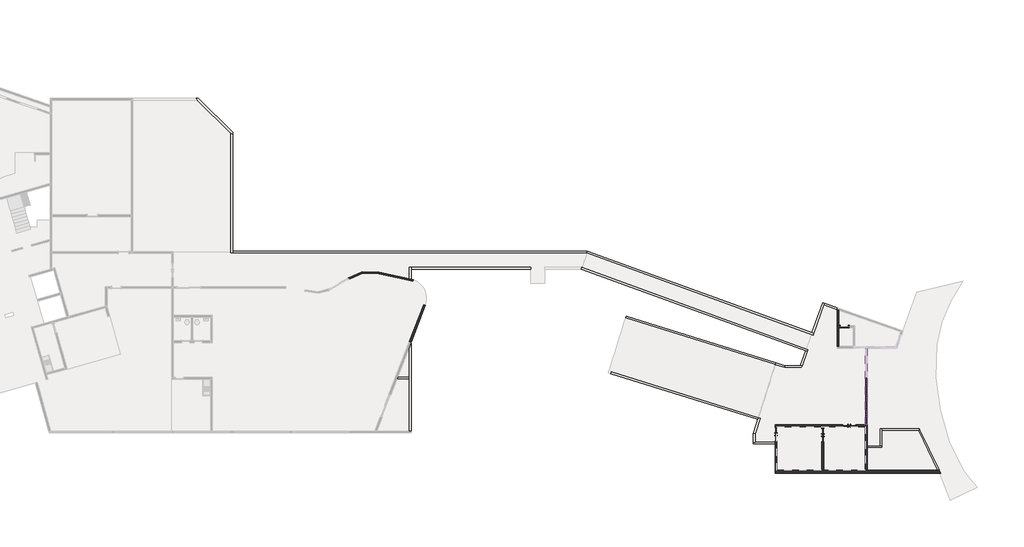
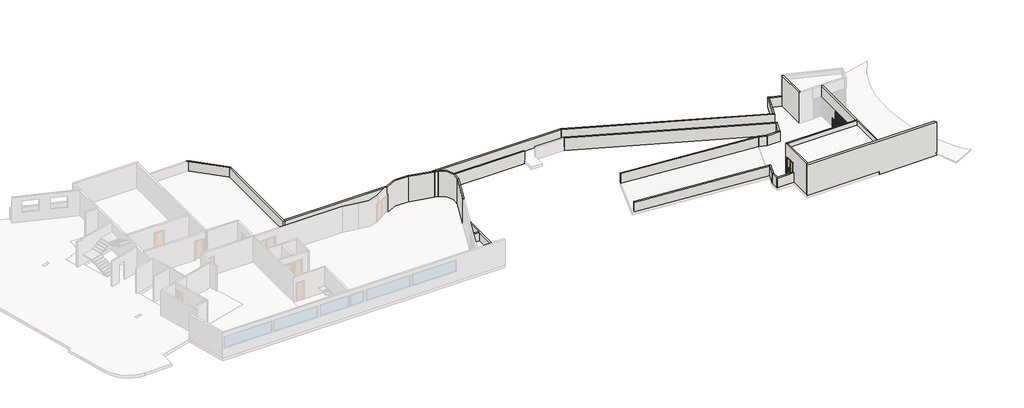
# One storey, part 4 of 7: 43 plates, 35 walls, 4 doors.
"""IFC4 building model written with IfcOpenShell, lengths in millimetres."""

from ifc_helpers import new_model, si_unit, point, frame, frame_2d, origin, place, context, project, spatial, polyline, circle_curve, trimmed, segment, composite_curve, outline, extrude, faceted_brep, transform, mapped, element, save
from ifc_brep_helpers import plane_surface, cylinder_surface, revolved_surface, advanced_brep
from components import door_1_20_x_2_10_046a985c, p3_70cm_ef4d15e3, painel_do_sistema_vazio_vazio_954907b5, painel_do_sistema_vazio_vazio_9710a491

model = new_model("IFC4")

# Units and contexts
model_context = context("Model", 3, world=origin())
ifc_project = project(units=[si_unit("LENGTHUNIT", "METRE", prefix="MILLI")], contexts=[model_context])

# Site, building, storey
site = spatial("IfcSite", under=ifc_project)
building = spatial("IfcBuilding", under=site)
storey = spatial("IfcBuildingStorey", under=building, Name="Térreo", Elevation=50750.0)

# Doors
placement = place(None, origin())
door_1_20_x_2_10_shape = door_1_20_x_2_10_046a985c(model_context)
element("IfcDoor", 1, ObjectType="Porta pivotante dupla sem revestimento : 1.20 x 2.10", at=placement, inside=storey, context=model_context, shape_type="MappedRepresentation", body=[
    mapped(door_1_20_x_2_10_shape, transform((-9877.0303394, 3216.5362358, 50000.0), x_axis=(0.0, -1.0, 0.0), y_axis=(1.0, 0.0, 0.0), z_axis=(0.0, 0.0, 1.0))),
])
element("IfcDoor", 2, ObjectType="Porta pivotante dupla sem revestimento : 1.20 x 2.10", at=placement, inside=storey, context=model_context, shape_type="MappedRepresentation", body=[
    mapped(door_1_20_x_2_10_shape, transform((-7648.4895645, 4010.4720862, 50000.0), x_axis=(-1.0, 0.0, 0.0), y_axis=(0.0, -1.0, 0.0), z_axis=(0.0, 0.0, 1.0))),
])
element("IfcDoor", 3, ObjectType="Porta pivotante dupla sem revestimento : 1.20 x 2.10", at=placement, inside=storey, context=model_context, shape_type="MappedRepresentation", body=[
    mapped(door_1_20_x_2_10_shape, transform((-13827.9200377, 3287.2039595, 50000.0), x_axis=(0.0, 1.0, 0.0), y_axis=(-1.0, 0.0, 0.0), z_axis=(0.0, 0.0, 1.0))),
])
p3_70cm_shape = p3_70cm_ef4d15e3(model_context)
element("IfcDoor", 4, ObjectType="M_Folha única1 : P3 - 70CM", at=placement, inside=storey, context=model_context, shape_type="MappedRepresentation", body=[
    mapped(p3_70cm_shape, transform((-8072.0478779, 12380.6611067, 50000.0), x_axis=(-1.0, 0.0, 0.0), y_axis=(0.0, -1.0, 0.0), z_axis=(0.0, 0.0, 1.0))),
])

# Plates
painel_do_sistema_vazio_vazio_shape = painel_do_sistema_vazio_vazio_954907b5(model_context)
element("IfcPlate", 5, ObjectType="Painel do sistema vazio : Vazio", at=placement, inside=storey, context=model_context, shape_type="MappedRepresentation", body=[
    mapped(painel_do_sistema_vazio_vazio_shape, transform((-6213.4895645, 4192.1673738, 50030.0), x_axis=(0.0, 1.0, 0.0), y_axis=(-1.0, 0.0, 0.0), z_axis=(0.0, 0.0, 1.0))),
])
element("IfcPlate", 6, ObjectType="Painel do sistema vazio : Vazio", at=placement, inside=storey, context=model_context, shape_type="MappedRepresentation", body=[
    mapped(painel_do_sistema_vazio_vazio_shape, transform((-6213.4895645, 4192.1673738, 51065.0), x_axis=(0.0, 1.0, 0.0), y_axis=(-1.0, 0.0, 0.0), z_axis=(0.0, 0.0, 1.0))),
])
painel_do_sistema_vazio_vazio_2_shape = painel_do_sistema_vazio_vazio_9710a491(model_context)
element("IfcPlate", 7, ObjectType="Painel do sistema vazio : Vazio", at=placement, inside=storey, context=model_context, shape_type="MappedRepresentation", body=[
    mapped(painel_do_sistema_vazio_vazio_2_shape, transform((-6213.4895645, 4383.0579488, 50030.0), x_axis=(0.0, 1.0, 0.0), y_axis=(-1.0, 0.0, 0.0), z_axis=(0.0, 0.0, 1.0))),
])
element("IfcPlate", 8, ObjectType="Painel do sistema vazio : Vazio", at=placement, inside=storey, context=model_context, shape_type="MappedRepresentation", body=[
    mapped(painel_do_sistema_vazio_vazio_2_shape, transform((-6213.4895645, 4581.4485236, 50030.0), x_axis=(0.0, 1.0, 0.0), y_axis=(-1.0, 0.0, 0.0), z_axis=(0.0, 0.0, 1.0))),
])
element("IfcPlate", 9, ObjectType="Painel do sistema vazio : Vazio", at=placement, inside=storey, context=model_context, shape_type="MappedRepresentation", body=[
    mapped(painel_do_sistema_vazio_vazio_2_shape, transform((-6213.4895645, 4779.8390984, 50030.0), x_axis=(0.0, 1.0, 0.0), y_axis=(-1.0, 0.0, 0.0), z_axis=(0.0, 0.0, 1.0))),
])
element("IfcPlate", 10, ObjectType="Painel do sistema vazio : Vazio", at=placement, inside=storey, context=model_context, shape_type="MappedRepresentation", body=[
    mapped(painel_do_sistema_vazio_vazio_2_shape, transform((-6213.4895645, 4978.2296732, 50030.0), x_axis=(0.0, 1.0, 0.0), y_axis=(-1.0, 0.0, 0.0), z_axis=(0.0, 0.0, 1.0))),
])
element("IfcPlate", 11, ObjectType="Painel do sistema vazio : Vazio", at=placement, inside=storey, context=model_context, shape_type="MappedRepresentation", body=[
    mapped(painel_do_sistema_vazio_vazio_2_shape, transform((-6213.4895645, 5176.620248, 50030.0), x_axis=(0.0, 1.0, 0.0), y_axis=(-1.0, 0.0, 0.0), z_axis=(0.0, 0.0, 1.0))),
])
element("IfcPlate", 12, ObjectType="Painel do sistema vazio : Vazio", at=placement, inside=storey, context=model_context, shape_type="MappedRepresentation", body=[
    mapped(painel_do_sistema_vazio_vazio_2_shape, transform((-6213.4895645, 5375.0108228, 50030.0), x_axis=(0.0, 1.0, 0.0), y_axis=(-1.0, 0.0, 0.0), z_axis=(0.0, 0.0, 1.0))),
])
element("IfcPlate", 13, ObjectType="Painel do sistema vazio : Vazio", at=placement, inside=storey, context=model_context, shape_type="MappedRepresentation", body=[
    mapped(painel_do_sistema_vazio_vazio_2_shape, transform((-6213.4895645, 5573.4013976, 50030.0), x_axis=(0.0, 1.0, 0.0), y_axis=(-1.0, 0.0, 0.0), z_axis=(0.0, 0.0, 1.0))),
])
element("IfcPlate", 14, ObjectType="Painel do sistema vazio : Vazio", at=placement, inside=storey, context=model_context, shape_type="MappedRepresentation", body=[
    mapped(painel_do_sistema_vazio_vazio_2_shape, transform((-6213.4895645, 5771.7919724, 50030.0), x_axis=(0.0, 1.0, 0.0), y_axis=(-1.0, 0.0, 0.0), z_axis=(0.0, 0.0, 1.0))),
])
element("IfcPlate", 15, ObjectType="Painel do sistema vazio : Vazio", at=placement, inside=storey, context=model_context, shape_type="MappedRepresentation", body=[
    mapped(painel_do_sistema_vazio_vazio_2_shape, transform((-6213.4895645, 5970.1825472, 50030.0), x_axis=(0.0, 1.0, 0.0), y_axis=(-1.0, 0.0, 0.0), z_axis=(0.0, 0.0, 1.0))),
])
element("IfcPlate", 16, ObjectType="Painel do sistema vazio : Vazio", at=placement, inside=storey, context=model_context, shape_type="MappedRepresentation", body=[
    mapped(painel_do_sistema_vazio_vazio_2_shape, transform((-6213.4895645, 6168.5731221, 50030.0), x_axis=(0.0, 1.0, 0.0), y_axis=(-1.0, 0.0, 0.0), z_axis=(0.0, 0.0, 1.0))),
])
element("IfcPlate", 17, ObjectType="Painel do sistema vazio : Vazio", at=placement, inside=storey, context=model_context, shape_type="MappedRepresentation", body=[
    mapped(painel_do_sistema_vazio_vazio_2_shape, transform((-6213.4895645, 6366.9636969, 50030.0), x_axis=(0.0, 1.0, 0.0), y_axis=(-1.0, 0.0, 0.0), z_axis=(0.0, 0.0, 1.0))),
])
element("IfcPlate", 18, ObjectType="Painel do sistema vazio : Vazio", at=placement, inside=storey, context=model_context, shape_type="MappedRepresentation", body=[
    mapped(painel_do_sistema_vazio_vazio_2_shape, transform((-6213.4895645, 6565.3542717, 50030.0), x_axis=(0.0, 1.0, 0.0), y_axis=(-1.0, 0.0, 0.0), z_axis=(0.0, 0.0, 1.0))),
])
element("IfcPlate", 19, ObjectType="Painel do sistema vazio : Vazio", at=placement, inside=storey, context=model_context, shape_type="MappedRepresentation", body=[
    mapped(painel_do_sistema_vazio_vazio_2_shape, transform((-6213.4895645, 6763.7448465, 50030.0), x_axis=(0.0, 1.0, 0.0), y_axis=(-1.0, 0.0, 0.0), z_axis=(0.0, 0.0, 1.0))),
])
element("IfcPlate", 20, ObjectType="Painel do sistema vazio : Vazio", at=placement, inside=storey, context=model_context, shape_type="MappedRepresentation", body=[
    mapped(painel_do_sistema_vazio_vazio_2_shape, transform((-6213.4895645, 6962.1354213, 50030.0), x_axis=(0.0, 1.0, 0.0), y_axis=(-1.0, 0.0, 0.0), z_axis=(0.0, 0.0, 1.0))),
])
element("IfcPlate", 21, ObjectType="Painel do sistema vazio : Vazio", at=placement, inside=storey, context=model_context, shape_type="MappedRepresentation", body=[
    mapped(painel_do_sistema_vazio_vazio_2_shape, transform((-6213.4895645, 7160.5259961, 50030.0), x_axis=(0.0, 1.0, 0.0), y_axis=(-1.0, 0.0, 0.0), z_axis=(0.0, 0.0, 1.0))),
])
element("IfcPlate", 22, ObjectType="Painel do sistema vazio : Vazio", at=placement, inside=storey, context=model_context, shape_type="MappedRepresentation", body=[
    mapped(painel_do_sistema_vazio_vazio_2_shape, transform((-6213.4895645, 7358.9165709, 50030.0), x_axis=(0.0, 1.0, 0.0), y_axis=(-1.0, 0.0, 0.0), z_axis=(0.0, 0.0, 1.0))),
])
element("IfcPlate", 23, ObjectType="Painel do sistema vazio : Vazio", at=placement, inside=storey, context=model_context, shape_type="MappedRepresentation", body=[
    mapped(painel_do_sistema_vazio_vazio_2_shape, transform((-6213.4895645, 7557.3071457, 50030.0), x_axis=(0.0, 1.0, 0.0), y_axis=(-1.0, 0.0, 0.0), z_axis=(0.0, 0.0, 1.0))),
])
element("IfcPlate", 24, ObjectType="Painel do sistema vazio : Vazio", at=placement, inside=storey, context=model_context, shape_type="MappedRepresentation", body=[
    mapped(painel_do_sistema_vazio_vazio_2_shape, transform((-6213.4895645, 7755.6977205, 50030.0), x_axis=(0.0, 1.0, 0.0), y_axis=(-1.0, 0.0, 0.0), z_axis=(0.0, 0.0, 1.0))),
])
element("IfcPlate", 25, ObjectType="Painel do sistema vazio : Vazio", at=placement, inside=storey, context=model_context, shape_type="MappedRepresentation", body=[
    mapped(painel_do_sistema_vazio_vazio_2_shape, transform((-6213.4895645, 7954.0882954, 50030.0), x_axis=(0.0, 1.0, 0.0), y_axis=(-1.0, 0.0, 0.0), z_axis=(0.0, 0.0, 1.0))),
])
element("IfcPlate", 26, ObjectType="Painel do sistema vazio : Vazio", at=placement, inside=storey, context=model_context, shape_type="MappedRepresentation", body=[
    mapped(painel_do_sistema_vazio_vazio_2_shape, transform((-6213.4895645, 8152.4788702, 50030.0), x_axis=(0.0, 1.0, 0.0), y_axis=(-1.0, 0.0, 0.0), z_axis=(0.0, 0.0, 1.0))),
])
element("IfcPlate", 27, ObjectType="Painel do sistema vazio : Vazio", at=placement, inside=storey, context=model_context, shape_type="MappedRepresentation", body=[
    mapped(painel_do_sistema_vazio_vazio_2_shape, transform((-6213.4895645, 8350.869445, 50030.0), x_axis=(0.0, 1.0, 0.0), y_axis=(-1.0, 0.0, 0.0), z_axis=(0.0, 0.0, 1.0))),
])
element("IfcPlate", 28, ObjectType="Painel do sistema vazio : Vazio", at=placement, inside=storey, context=model_context, shape_type="MappedRepresentation", body=[
    mapped(painel_do_sistema_vazio_vazio_2_shape, transform((-6213.4895645, 8549.2600198, 50030.0), x_axis=(0.0, 1.0, 0.0), y_axis=(-1.0, 0.0, 0.0), z_axis=(0.0, 0.0, 1.0))),
])
element("IfcPlate", 29, ObjectType="Painel do sistema vazio : Vazio", at=placement, inside=storey, context=model_context, shape_type="MappedRepresentation", body=[
    mapped(painel_do_sistema_vazio_vazio_2_shape, transform((-6213.4895645, 4383.0579488, 51065.0), x_axis=(0.0, 1.0, 0.0), y_axis=(-1.0, 0.0, 0.0), z_axis=(0.0, 0.0, 1.0))),
])
element("IfcPlate", 30, ObjectType="Painel do sistema vazio : Vazio", at=placement, inside=storey, context=model_context, shape_type="MappedRepresentation", body=[
    mapped(painel_do_sistema_vazio_vazio_2_shape, transform((-6213.4895645, 4581.4485236, 51065.0), x_axis=(0.0, 1.0, 0.0), y_axis=(-1.0, 0.0, 0.0), z_axis=(0.0, 0.0, 1.0))),
])
element("IfcPlate", 31, ObjectType="Painel do sistema vazio : Vazio", at=placement, inside=storey, context=model_context, shape_type="MappedRepresentation", body=[
    mapped(painel_do_sistema_vazio_vazio_2_shape, transform((-6213.4895645, 4779.8390984, 51065.0), x_axis=(0.0, 1.0, 0.0), y_axis=(-1.0, 0.0, 0.0), z_axis=(0.0, 0.0, 1.0))),
])
element("IfcPlate", 32, ObjectType="Painel do sistema vazio : Vazio", at=placement, inside=storey, context=model_context, shape_type="MappedRepresentation", body=[
    mapped(painel_do_sistema_vazio_vazio_2_shape, transform((-6213.4895645, 4978.2296732, 51065.0), x_axis=(0.0, 1.0, 0.0), y_axis=(-1.0, 0.0, 0.0), z_axis=(0.0, 0.0, 1.0))),
])
element("IfcPlate", 33, ObjectType="Painel do sistema vazio : Vazio", at=placement, inside=storey, context=model_context, shape_type="MappedRepresentation", body=[
    mapped(painel_do_sistema_vazio_vazio_2_shape, transform((-6213.4895645, 5176.620248, 51065.0), x_axis=(0.0, 1.0, 0.0), y_axis=(-1.0, 0.0, 0.0), z_axis=(0.0, 0.0, 1.0))),
])
element("IfcPlate", 34, ObjectType="Painel do sistema vazio : Vazio", at=placement, inside=storey, context=model_context, shape_type="MappedRepresentation", body=[
    mapped(painel_do_sistema_vazio_vazio_2_shape, transform((-6213.4895645, 5375.0108228, 51065.0), x_axis=(0.0, 1.0, 0.0), y_axis=(-1.0, 0.0, 0.0), z_axis=(0.0, 0.0, 1.0))),
])
element("IfcPlate", 35, ObjectType="Painel do sistema vazio : Vazio", at=placement, inside=storey, context=model_context, shape_type="MappedRepresentation", body=[
    mapped(painel_do_sistema_vazio_vazio_2_shape, transform((-6213.4895645, 5573.4013976, 51065.0), x_axis=(0.0, 1.0, 0.0), y_axis=(-1.0, 0.0, 0.0), z_axis=(0.0, 0.0, 1.0))),
])
element("IfcPlate", 36, ObjectType="Painel do sistema vazio : Vazio", at=placement, inside=storey, context=model_context, shape_type="MappedRepresentation", body=[
    mapped(painel_do_sistema_vazio_vazio_2_shape, transform((-6213.4895645, 5771.7919724, 51065.0), x_axis=(0.0, 1.0, 0.0), y_axis=(-1.0, 0.0, 0.0), z_axis=(0.0, 0.0, 1.0))),
])
element("IfcPlate", 37, ObjectType="Painel do sistema vazio : Vazio", at=placement, inside=storey, context=model_context, shape_type="MappedRepresentation", body=[
    mapped(painel_do_sistema_vazio_vazio_2_shape, transform((-6213.4895645, 5970.1825472, 51065.0), x_axis=(0.0, 1.0, 0.0), y_axis=(-1.0, 0.0, 0.0), z_axis=(0.0, 0.0, 1.0))),
])
element("IfcPlate", 38, ObjectType="Painel do sistema vazio : Vazio", at=placement, inside=storey, context=model_context, shape_type="MappedRepresentation", body=[
    mapped(painel_do_sistema_vazio_vazio_2_shape, transform((-6213.4895645, 6168.5731221, 51065.0), x_axis=(0.0, 1.0, 0.0), y_axis=(-1.0, 0.0, 0.0), z_axis=(0.0, 0.0, 1.0))),
])
element("IfcPlate", 39, ObjectType="Painel do sistema vazio : Vazio", at=placement, inside=storey, context=model_context, shape_type="MappedRepresentation", body=[
    mapped(painel_do_sistema_vazio_vazio_2_shape, transform((-6213.4895645, 6366.9636969, 51065.0), x_axis=(0.0, 1.0, 0.0), y_axis=(-1.0, 0.0, 0.0), z_axis=(0.0, 0.0, 1.0))),
])
element("IfcPlate", 40, ObjectType="Painel do sistema vazio : Vazio", at=placement, inside=storey, context=model_context, shape_type="MappedRepresentation", body=[
    mapped(painel_do_sistema_vazio_vazio_2_shape, transform((-6213.4895645, 6565.3542717, 51065.0), x_axis=(0.0, 1.0, 0.0), y_axis=(-1.0, 0.0, 0.0), z_axis=(0.0, 0.0, 1.0))),
])
element("IfcPlate", 41, ObjectType="Painel do sistema vazio : Vazio", at=placement, inside=storey, context=model_context, shape_type="MappedRepresentation", body=[
    mapped(painel_do_sistema_vazio_vazio_2_shape, transform((-6213.4895645, 6763.7448465, 51065.0), x_axis=(0.0, 1.0, 0.0), y_axis=(-1.0, 0.0, 0.0), z_axis=(0.0, 0.0, 1.0))),
])
element("IfcPlate", 42, ObjectType="Painel do sistema vazio : Vazio", at=placement, inside=storey, context=model_context, shape_type="MappedRepresentation", body=[
    mapped(painel_do_sistema_vazio_vazio_2_shape, transform((-6213.4895645, 6962.1354213, 51065.0), x_axis=(0.0, 1.0, 0.0), y_axis=(-1.0, 0.0, 0.0), z_axis=(0.0, 0.0, 1.0))),
])
element("IfcPlate", 43, ObjectType="Painel do sistema vazio : Vazio", at=placement, inside=storey, context=model_context, shape_type="MappedRepresentation", body=[
    mapped(painel_do_sistema_vazio_vazio_2_shape, transform((-6213.4895645, 7160.5259961, 51065.0), x_axis=(0.0, 1.0, 0.0), y_axis=(-1.0, 0.0, 0.0), z_axis=(0.0, 0.0, 1.0))),
])
element("IfcPlate", 44, ObjectType="Painel do sistema vazio : Vazio", at=placement, inside=storey, context=model_context, shape_type="MappedRepresentation", body=[
    mapped(painel_do_sistema_vazio_vazio_2_shape, transform((-6213.4895645, 7358.9165709, 51065.0), x_axis=(0.0, 1.0, 0.0), y_axis=(-1.0, 0.0, 0.0), z_axis=(0.0, 0.0, 1.0))),
])
element("IfcPlate", 45, ObjectType="Painel do sistema vazio : Vazio", at=placement, inside=storey, context=model_context, shape_type="MappedRepresentation", body=[
    mapped(painel_do_sistema_vazio_vazio_2_shape, transform((-6213.4895645, 7557.3071457, 51065.0), x_axis=(0.0, 1.0, 0.0), y_axis=(-1.0, 0.0, 0.0), z_axis=(0.0, 0.0, 1.0))),
])
element("IfcPlate", 46, ObjectType="Painel do sistema vazio : Vazio", at=placement, inside=storey, context=model_context, shape_type="MappedRepresentation", body=[
    mapped(painel_do_sistema_vazio_vazio_2_shape, transform((-6213.4895645, 7755.6977205, 51065.0), x_axis=(0.0, 1.0, 0.0), y_axis=(-1.0, 0.0, 0.0), z_axis=(0.0, 0.0, 1.0))),
])
element("IfcPlate", 47, ObjectType="Painel do sistema vazio : Vazio", at=placement, inside=storey, context=model_context, shape_type="MappedRepresentation", body=[
    mapped(painel_do_sistema_vazio_vazio_2_shape, transform((-6213.4895645, 7954.0882954, 51065.0), x_axis=(0.0, 1.0, 0.0), y_axis=(-1.0, 0.0, 0.0), z_axis=(0.0, 0.0, 1.0))),
])

# Walls
element("IfcWall", 48, ObjectType="Básica .15 - Externa", at=placement, inside=storey, context=model_context, shape_type="Brep", body=[
    faceted_brep([(-15326.5936978, 4702.0687414, 50000.1910961), (-27752.8372347, 8561.0495751, 47881.6280597), (-27752.8372347, 8561.0495751, 48948.1065716), (-15326.5936978, 4702.0687414, 51113.4608809), (-15326.5936978, 4702.0687414, 51100.0), (-15372.2013601, 4559.1655623, 50000.0), (-15372.2013601, 4559.1655623, 51113.2655642), (-27775.5925358, 8411.0495751, 48951.8934284), (-27775.5925358, 8411.0495751, 47885.3330862)], [[[0, 1, 2, 3, 4]], [[5, 6, 7, 8]], [[0, 4, 3, 6, 5]], [[2, 1, 8, 7]], [[1, 0, 5, 8]], [[3, 2, 7, 6]]]),
])
element("IfcWall", 49, ObjectType="Básica .15 - Externa", at=placement, inside=storey, context=model_context, shape_type="Brep", body=[
    faceted_brep([(-13848.0576966, 9337.1040359, 49999.9237874), (-26495.4934305, 13264.7763004, 47849.9567787), (-26495.4934305, 13264.7763004, 48949.9384185), (-13848.0576966, 9337.1040359, 51114.3242707), (-13892.5445019, 9193.8527735, 49999.9237874), (-13892.5445019, 9193.8527735, 51114.3242707), (-26539.4717266, 13121.3671201, 48950.0254408), (-26539.4717266, 13121.3671201, 47850.0432213)], [[[0, 1, 2, 3]], [[4, 5, 6, 7]], [[1, 0, 4, 7]], [[0, 3, 5, 4]], [[3, 2, 6, 5]], [[2, 1, 7, 6]]]),
])
element("IfcWall", 50, ObjectType="Básica .15 - Externa", at=placement, inside=storey, context=model_context, shape_type="SweptSolid", body=[
    extrude(outline(composite_curve([segment(polyline([(-43450.1252628, 14196.0333673), (-43590.0104616, 14250.1825239)]), True, "CONTINUOUS"), segment(trimmed(circle_curve(frame_2d((-44988.8624494, 14791.6740899)), 1500.0), [point((-43590.0104616, 14250.1825239))], [point((-44506.9214595, 16212.1433371))], True, "CARTESIAN"), True, "CONTINUOUS"), segment(polyline([(-44506.9214595, 16212.1433371), (-44466.635853, 16356.8511987)]), True, "CONTINUOUS"), segment(trimmed(circle_curve(frame_2d((-44988.8624494, 14791.6740899)), 1650.0), [point((-44466.635853, 16356.8511987))], [point((-43450.1252628, 14196.0333673))], False, "CARTESIAN"), True, "CONTINUOUS")], self_intersect=False)), frame((0.0, 0.0, 50450.0), z_axis=(0.0, 0.0, 1.0), x_axis=(1.0, 0.0, 0.0)), (0.0, 0.0, 1.0), 3200.0),
])
element("IfcWall", 51, ObjectType="Básica .15 - Externa", at=placement, inside=storey, context=model_context, shape_type="Brep", body=[
    faceted_brep([(-43590.0104631, 14250.1825245, 50450.0), (-44800.8122421, 11122.2806661, 50450.0), (-44800.8122421, 11122.2806661, 50750.0), (-44800.8122421, 11122.2806661, 53650.0), (-43590.0104631, 14250.1825245, 53650.0), (-43450.1252643, 14196.0333679, 50450.0), (-43450.1252643, 14196.0333679, 53650.0), (-44660.9270434, 11068.1315095, 53650.0), (-44660.9270434, 11068.1315095, 50750.0), (-44660.9270434, 11068.1315095, 50450.0)], [[[0, 1, 2, 3, 4]], [[5, 6, 7, 8, 9]], [[1, 0, 5, 9]], [[4, 3, 7, 6]], [[0, 4, 6, 5]], [[1, 9, 8, 7, 3, 2]]]),
])
element("IfcWall", 52, ObjectType="Básica .15 -  Interna", at=placement, inside=storey, context=model_context, shape_type="AdvancedBrep", body=[
    advanced_brep(
    [(-50006.7852254, 16299.59702, 53650.0), (-47375.5669401, 16849.1968829, 53650.0), (-47340.5565055, 16995.0762267, 53650.0), (-50090.3617805, 16424.6493419, 53650.0), (-50090.3617805, 16424.6493419, 50750.0), (-47340.5565055, 16995.0762267, 50750.0), (-47375.5669401, 16849.1968829, 50750.0), (-49867.0283218, 16402.8217283, 50750.0), (-49930.6272734, 16515.1162945, 50750.0), (-50006.7852254, 16299.59702, 52850.0), (-49867.0283218, 16402.8217283, 52850.0), (-50090.3617805, 16424.6493419, 52850.0), (-49930.6272734, 16515.1162945, 52850.0)],
    [
        (0, 1, circle_curve(frame((-48134.9696926, 13911.5498093, 53650.0), z_axis=(0.0, 0.0, -1.0), x_axis=(1.0, 0.0, 0.0)), 3034.215363)),
        (1, 2),
        (2, 3, circle_curve(frame((-48134.9696926, 13911.5498093, 53650.0), z_axis=(0.0, 0.0, 1.0), x_axis=(1.0, 0.0, 0.0)), 3184.215363)),
        (3, 0),
        (4, 5, circle_curve(frame((-48134.9696926, 13911.5498093, 50750.0), z_axis=(0.0, 0.0, -1.0), x_axis=(1.0, 0.0, 0.0)), 3184.215363)),
        (5, 6),
        (6, 7, circle_curve(frame((-48134.9696926, 13911.5498093, 50750.0), z_axis=(0.0, 0.0, 1.0), x_axis=(1.0, 0.0, 0.0)), 3034.215363)),
        (7, 8),
        (8, 4),
        (0, 9),
        (9, 10, circle_curve(frame((-48134.9696926, 13911.5498093, 52850.0), z_axis=(0.0, 0.0, -1.0), x_axis=(1.0, 0.0, 0.0)), 3034.215363)),
        (10, 7),
        (6, 1),
        (2, 5),
        (4, 11),
        (11, 3),
        (11, 9),
        (8, 12),
        (12, 11),
        (12, 10),
    ],
    [
        plane_surface(frame((-45100.7543295, 13911.5498093, 53650.0), z_axis=(0.0, 0.0, 1.0), x_axis=(0.0, -1.0, 0.0))),
        plane_surface(frame((-45100.7543295, 13911.5498093, 50750.0), z_axis=(0.0, 0.0, -1.0), x_axis=(0.0, 1.0, 0.0))),
        revolved_surface(polyline([(-45100.7543296, 13911.5498093, 50750.0), (-45100.7543296, 13911.5498093, 53650.0)]), (-48134.9696926, 13911.5498093, 50750.0), (0.0, 0.0, -1.0)),
        cylinder_surface(frame((-48134.9696926, 13911.5498093, 50750.0), z_axis=(0.0, 0.0, 1.0), x_axis=(1.0, 0.0, 0.0)), 3184.215363),
        plane_surface(frame((-47375.5669401, 16849.1968829, 50750.0), z_axis=(0.9723882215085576, -0.23336912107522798, 0.0), x_axis=(0.23336912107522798, 0.9723882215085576, 0.0))),
        plane_surface(frame((-50090.3617805, 16424.6493419, 50750.0), z_axis=(-0.8314104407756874, -0.5556587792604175, 0.0), x_axis=(0.5556587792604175, -0.8314104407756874, 0.0))),
        plane_surface(frame((-51670.9018338, 15529.4974765, 50750.0), z_axis=(0.4928094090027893, -0.8701372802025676, 0.0), x_axis=(0.0, 0.0, 1.0))),
        plane_surface(frame((-51670.9018338, 15529.4974765, 52850.0), z_axis=(0.0, 0.0, -1.0), x_axis=(0.49280940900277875, -0.8701372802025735, 0.0))),
        plane_surface(frame((-49930.6272734, 16515.1162945, 52850.0), z_axis=(-0.8701372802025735, -0.49280940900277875, 0.0), x_axis=(0.49280940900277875, -0.8701372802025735, 0.0))),
    ],
    [
        (0, [[1, 2, 3, 4]]),
        (1, [[5, 6, 7, 8, 9]]),
        (2, [[-1, 10, 11, 12, -7, 13]]),
        (3, [[-3, 14, -5, 15, 16]]),
        (4, [[-2, -13, -6, -14]]),
        (5, [[-4, -16, 17, -10]]),
        (6, [[18, 19, -15, -9]]),
        (7, [[-19, 20, -11, -17]]),
        (8, [[-18, -8, -12, -20]]),
    ],
),
])
element("IfcWall", 53, ObjectType="Básica .15 - Externa", at=placement, inside=storey, context=model_context, shape_type="Brep", body=[
    faceted_brep([(-44466.635853, 16356.8511987, 50750.0), (-44655.8696428, 16398.8752333, 50750.0), (-44805.8696428, 16432.1864362, 50750.0), (-44808.3119956, 16432.728821, 50750.0), (-44808.3119956, 16432.728821, 53650.0), (-44466.635853, 16356.8511987, 53650.0), (-44506.9214595, 16212.1433371, 50750.0), (-44506.9214595, 16212.1433371, 53650.0), (-44840.8309766, 16286.2961884, 53650.0), (-44840.8309766, 16286.2961884, 50750.0)], [[[0, 1, 2, 3, 4, 5]], [[6, 7, 8, 9]], [[3, 2, 1, 0, 6, 9]], [[4, 3, 9, 8]], [[5, 4, 8, 7]], [[0, 5, 7, 6]]]),
])
element("IfcWall", 54, ObjectType="Básica .15 - Externa", at=placement, inside=storey, context=model_context, shape_type="Brep", body=[
    faceted_brep([(-44805.8696428, 10693.6967888, 50750.0), (-44805.8696428, 8128.1204536, 50750.0), (-44805.8696428, 7978.1204536, 50750.0), (-44805.8696428, 3561.0495751, 50750.0), (-44805.8696428, 3561.0495751, 51750.0), (-44805.8696428, 7978.1204536, 51750.0), (-44805.8696428, 8128.1204536, 51750.0), (-44805.8696428, 10693.6967888, 51750.0), (-44655.8696428, 11081.1964497, 50750.0), (-44655.8696428, 11081.1964497, 51750.0), (-44655.8696428, 3561.0495751, 51750.0), (-44655.8696428, 3561.0495751, 50750.0), (-44660.9270434, 11068.1315095, 50750.0)], [[[0, 1, 2, 3, 4, 5, 6, 7]], [[8, 9, 10, 11]], [[3, 2, 1, 0, 12, 8, 11]], [[7, 6, 5, 4, 10, 9]], [[4, 3, 11, 10]], [[0, 7, 9, 8, 12]]]),
])
element("IfcWall", 55, ObjectType="Básica .15 -  Interna", at=placement, inside=storey, context=model_context, shape_type="SweptSolid", body=[
    extrude(outline(polyline([(-45798.9968352, 8128.1204536), (-44805.8696428, 8128.1204536), (-44805.8696428, 7978.1204536), (-45857.0614022, 7978.1204536), (-45798.9968352, 8128.1204536)])), frame((0.0, 0.0, 50750.0), z_axis=(0.0, 0.0, 1.0), x_axis=(1.0, 0.0, 0.0)), (0.0, 0.0, 1.0), 1000.0),
])
element("IfcWall", 56, ObjectType="Básica .15 - Externa", at=placement, inside=storey, context=model_context, shape_type="Brep", body=[
    faceted_brep([(-62852.9385742, 31673.8506069, 50750.0), (-62701.4234226, 31523.8506069, 50750.0), (-59878.6137209, 28729.2690021, 50750.0), (-59728.6137209, 28580.7690021, 50750.0), (-59728.6137209, 28580.7690021, 51850.0), (-59878.6137209, 28729.2690021, 51850.0), (-62701.4234226, 31523.8506069, 51850.0), (-62852.9385742, 31673.8506069, 51850.0), (-62639.732474, 31673.8506069, 50750.0), (-62639.732474, 31673.8506069, 51850.0), (-59728.6137209, 28791.8430413, 51850.0), (-59728.6137209, 28791.8430413, 50750.0)], [[[0, 1, 2, 3, 4, 5, 6, 7]], [[8, 9, 10, 11]], [[3, 2, 1, 0, 8, 11]], [[7, 6, 5, 4, 10, 9]], [[4, 3, 11, 10]], [[0, 7, 9, 8]]]),
])
element("IfcWall", 57, ObjectType="Básica .15 - Externa", at=placement, inside=storey, context=model_context, shape_type="Brep", body=[
    faceted_brep([(-59878.6137209, 28729.2690021, 50750.0), (-59878.6137209, 18602.5140353, 50750.0), (-59878.6137209, 18602.5140353, 51850.0), (-59878.6137209, 28729.2690021, 51850.0), (-59728.6137209, 28580.7690021, 50750.0), (-59728.6137209, 28580.7690021, 51850.0), (-59728.6137209, 18752.5140353, 51850.0), (-59728.6137209, 18602.5140353, 51850.0), (-59728.6137209, 18602.5140353, 50750.0)], [[[0, 1, 2, 3]], [[4, 5, 6, 7, 8]], [[1, 0, 4, 8]], [[3, 2, 7, 6, 5]], [[0, 3, 5, 4]], [[2, 1, 8, 7]]]),
])
element("IfcWall", 58, ObjectType="Básica .15 - Externa", at=placement, inside=storey, context=model_context, shape_type="Brep", body=[
    faceted_brep([(-59728.6137209, 18602.5140353, 51850.0), (-59728.6137209, 18602.5140353, 50750.0), (-59728.6137209, 18602.5140353, 50450.0), (-29816.387881, 18602.5140353, 50450.0), (-29816.387881, 18602.5140353, 51850.0), (-59728.6137209, 18752.5140353, 50450.0), (-59728.6137209, 18752.5140353, 51850.0), (-29790.0427775, 18752.5140353, 51850.0), (-29790.0427775, 18752.5140353, 50450.0)], [[[0, 1, 2, 3, 4]], [[5, 6, 7, 8]], [[3, 2, 5, 8]], [[0, 4, 7, 6]], [[0, 6, 5, 2, 1]], [[4, 3, 8, 7]]]),
])
element("IfcWall", 59, ObjectType="Básica .15 - Externa", at=placement, inside=storey, context=model_context, shape_type="Brep", body=[
    faceted_brep([(-44805.8696428, 17379.2111284, 50750.0), (-44805.8696428, 16432.1864362, 50750.0), (-44805.8696428, 16432.1864362, 51850.0), (-44805.8696428, 17379.2111284, 51850.0), (-44655.8696428, 17379.2111284, 50750.0), (-44655.8696428, 17379.2111284, 51850.0), (-44655.8696428, 17229.2111284, 51850.0), (-44655.8696428, 16398.8752333, 51850.0), (-44655.8696428, 16398.8752333, 50750.0)], [[[0, 1, 2, 3]], [[4, 5, 6, 7, 8]], [[1, 0, 4, 8]], [[3, 2, 7, 6, 5]], [[2, 1, 8, 7]], [[0, 3, 5, 4]]]),
])
element("IfcWall", 60, ObjectType="Básica .15 - Externa", at=placement, inside=storey, context=model_context, shape_type="Brep", body=[
    faceted_brep([(-30282.6654006, 17229.2111284, 50450.0605712), (-11193.3003036, 10310.2972329, 49694.4141723), (-11193.3003036, 10310.2972329, 50000.0), (-11193.3003036, 10310.2972329, 51095.1755366), (-30282.6654006, 17229.2111284, 51850.8219355), (-30256.3202971, 17379.2111284, 50451.04102), (-30256.3202971, 17379.2111284, 51851.8023843), (-11142.8774083, 10451.5702707, 51095.2028737), (-11142.8774083, 10451.5702707, 49694.4415094)], [[[0, 1, 2, 3, 4]], [[5, 6, 7, 8]], [[1, 0, 5, 8]], [[4, 3, 7, 6]], [[3, 2, 1, 8, 7]], [[0, 4, 6, 5]]]),
])
element("IfcWall", 61, ObjectType="Básica .15 - Externa", at=placement, inside=storey, context=model_context, shape_type="Brep", body=[
    faceted_brep([(-29816.387881, 18602.5140353, 50450.0611152), (-10705.8789823, 11675.9365983, 49694.4172851), (-10705.8789823, 11675.9365983, 51095.1786494), (-29816.387881, 18602.5140353, 51850.8224796), (-29790.0427775, 18752.5140353, 50451.0404759), (-29790.0427775, 18752.5140353, 51851.8018402), (-10655.456087, 11817.2096361, 51095.2059562), (-10655.456087, 11817.2096361, 50000.0), (-10655.456087, 11817.2096361, 49694.4445918)], [[[0, 1, 2, 3]], [[4, 5, 6, 7, 8]], [[1, 0, 4, 8]], [[3, 2, 6, 5]], [[0, 3, 5, 4]], [[2, 1, 8, 7, 6]]]),
])
element("IfcWall", 62, ObjectType="Básica .15 - Externa", at=placement, inside=storey, context=model_context, shape_type="Brep", body=[
    faceted_brep([(-8522.0478779, 10707.3610556, 50000.0), (-8522.0478779, 12305.6611067, 50000.0), (-8522.0478779, 12455.6611067, 50000.0), (-8522.0478779, 13776.6282188, 50000.0), (-8522.0478779, 13776.6282188, 53500.0), (-8522.0478779, 10707.3610556, 53500.0), (-8672.0478779, 10707.3610556, 50000.0), (-8672.0478779, 10707.3610556, 53500.0), (-8672.0478779, 13829.6714209, 53500.0), (-8672.0478779, 13829.6714209, 50000.0), (-8672.0478779, 13820.7796972, 50000.0)], [[[0, 1, 2, 3, 4, 5]], [[6, 7, 8, 9, 10]], [[5, 4, 8, 7]], [[0, 5, 7, 6]], [[3, 9, 8, 4]], [[3, 2, 1, 0, 6, 10, 9]]]),
])
element("IfcWall", 63, ObjectType="Básica .15 - Externa", at=placement, inside=storey, context=model_context, shape_type="Brep", body=[
    faceted_brep([(-6288.4895645, 4085.4720862, 53500.0), (-6288.4895645, 4085.4720862, 52300.0), (-6288.4895645, 4085.4720862, 50000.0), (-6288.4895645, 3935.4720862, 50000.0), (-6288.4895645, 238.3855813, 50000.0), (-6288.4895645, 238.3855813, 53500.0), (-6288.4895645, 3935.4720862, 53500.0), (-6138.4895645, 4085.4720862, 50000.0), (-6138.4895645, 4085.4720862, 52300.0), (-6138.4895645, 4085.4720862, 53500.0), (-6138.4895645, 238.3855813, 53500.0), (-6138.4895645, 238.3855813, 50000.0), (-6138.4895645, 2189.5154777, 50000.0), (-6138.4895645, 2289.5154777, 50000.0)], [[[0, 1, 2, 3, 4, 5, 6]], [[7, 8, 9, 10, 11, 12, 13]], [[4, 3, 2, 7, 13, 12, 11]], [[5, 4, 11, 10]], [[0, 6, 5, 10, 9]], [[0, 9, 8, 7, 2, 1]]]),
])
element("IfcWall", 64, ObjectType="Básica .15 - Externa", at=placement, inside=storey, context=model_context, shape_type="Brep", body=[
    faceted_brep([(-13752.9200377, 4085.4720862, 53500.0331325), (-13752.9200377, 3935.4720862, 53500.0331325), (-13752.9200377, 238.3855813, 53500.0331325), (-13752.9200377, 238.3855813, 50000.0), (-13752.9200377, 2687.2039595, 50000.0), (-13752.9200377, 2687.2039595, 52100.0), (-13752.9200377, 3887.2039595, 52100.0), (-13752.9200377, 3887.2039595, 50000.0), (-13752.9200377, 3935.4720862, 50000.0), (-13752.9200377, 4085.4720862, 50000.0), (-13902.9200377, 238.3855813, 53500.0331325), (-13902.9200377, 4085.4720862, 53500.0331325), (-13902.9200377, 4085.4720862, 50000.0), (-13902.9200377, 3887.2039595, 50000.0), (-13902.9200377, 3887.2039595, 52100.0), (-13902.9200377, 2687.2039595, 52100.0), (-13902.9200377, 2687.2039595, 50000.0), (-13902.9200377, 2638.9358327, 50000.0), (-13902.9200377, 2488.9358327, 50000.0), (-13902.9200377, 238.3855813, 50000.0)], [[[0, 1, 2, 3, 4, 5, 6, 7, 8, 9]], [[10, 11, 12, 13, 14, 15, 16, 17, 18, 19]], [[2, 1, 0, 11, 10]], [[9, 12, 11, 0]], [[2, 10, 19, 3]], [[6, 14, 13, 7]], [[14, 6, 5, 15]], [[15, 5, 4, 16]], [[12, 9, 8, 7, 13]], [[3, 19, 18, 17, 16, 4]]]),
])
element("IfcWall", 65, ObjectType="Básica .15 -  Interna", at=placement, inside=storey, context=model_context, shape_type="SweptSolid", body=[
    extrude(outline(polyline([(3935.4720862, 52700.0), (3935.4720862, 50000.0), (3816.5362358, 50000.0), (3816.5362358, 52100.0), (2616.5362358, 52100.0), (2616.5362358, 50000.0), (238.3855813, 50000.0), (238.3855813, 52700.0), (3935.4720862, 52700.0)])), frame((-9952.0303394, 0.0, 0.0), z_axis=(1.0, 0.0, 0.0), x_axis=(0.0, 1.0, 0.0)), (0.0, 0.0, 1.0), 150.0),
])
element("IfcWall", 66, ObjectType="Canteiro (Recuo)", at=placement, inside=storey, context=model_context, shape_type="Brep", body=[
    faceted_brep([(-6138.4895645, 2189.5154777, 50000.0), (-4914.4776622, 2189.5154777, 50000.0), (-4914.4776622, 2189.5154777, 50200.0), (-6138.4895645, 2189.5154777, 50200.0), (-6138.4895645, 2289.5154777, 50000.0), (-6138.4895645, 2289.5154777, 50200.0), (-5014.4776622, 2289.5154777, 50200.0), (-4914.4776622, 2289.5154777, 50200.0), (-4914.4776622, 2289.5154777, 50000.0), (-5014.4776622, 2289.5154777, 50000.0)], [[[0, 1, 2, 3]], [[4, 5, 6, 7, 8, 9]], [[1, 0, 4, 9, 8]], [[3, 2, 7, 6, 5]], [[0, 3, 5, 4]], [[2, 1, 8, 7]]]),
])
element("IfcWall", 67, ObjectType="Canteiro (Recuo)", at=placement, inside=storey, context=model_context, shape_type="Brep", body=[
    faceted_brep([(-4914.4776622, 2289.5154777, 50000.0), (-4914.4776622, 3644.6062013, 50000.0), (-4914.4776622, 3744.6062013, 50000.0), (-4914.4776622, 3744.6062013, 50200.0), (-4914.4776622, 3644.6062013, 50200.0), (-4914.4776622, 2289.5154777, 50200.0), (-5014.4776622, 2289.5154777, 50000.0), (-5014.4776622, 2289.5154777, 50200.0), (-5014.4776622, 3744.6062013, 50200.0), (-5014.4776622, 3744.6062013, 50000.0)], [[[0, 1, 2, 3, 4, 5]], [[6, 7, 8, 9]], [[2, 1, 0, 6, 9]], [[5, 4, 3, 8, 7]], [[0, 5, 7, 6]], [[3, 2, 9, 8]]]),
])
element("IfcWall", 68, ObjectType="Canteiro (Recuo)", at=placement, inside=storey, context=model_context, shape_type="AdvancedBrep", body=[
    advanced_brep(
    [(-4914.4776622, 3644.6062013, 50000.0), (-1798.2517429, 3644.6062013, 50000.0), (-1692.0621591, 3644.6062013, 50000.0), (-1692.0621591, 3644.6062013, 50200.0), (-1798.2517429, 3644.6062013, 50200.0), (-4914.4776622, 3644.6062013, 50200.0), (-4914.4776622, 3744.6062013, 50000.0), (-4914.4776622, 3744.6062013, 50200.0), (-1727.5696627, 3744.6062013, 50200.0), (-1727.5696627, 3744.6062013, 50000.0)],
    [
        (0, 1),
        (1, 2),
        (2, 3),
        (3, 4),
        (4, 5),
        (5, 0),
        (6, 7),
        (7, 8),
        (8, 9),
        (9, 6),
        (0, 6),
        (9, 2, circle_curve(frame((15539.2697894, 9819.3259237, 50000.0), z_axis=(0.0, 0.0, 1.0), x_axis=(1.0, 0.0, 0.0)), 18304.2608255)),
        (3, 8, circle_curve(frame((15539.2697894, 9819.3259237, 50200.0), z_axis=(0.0, 0.0, -1.0), x_axis=(1.0, 0.0, 0.0)), 18304.2608255)),
        (7, 5),
    ],
    [
        plane_surface(frame((-4910.8899542, 3644.6062013, 50000.0), z_axis=(0.0, -1.0, 0.0), x_axis=(1.0, 0.0, 0.0))),
        plane_surface(frame((-4910.8899542, 3744.6062013, 50000.0), z_axis=(0.0, 1.0, 0.0), x_axis=(-1.0, 0.0, 0.0))),
        plane_surface(frame((-4964.4776622, 3644.6062013, 50000.0), z_axis=(0.0, 0.0, -1.0), x_axis=(0.0, 1.0, 0.0))),
        plane_surface(frame((-1762.9467962, 3644.6062013, 50200.0), z_axis=(0.0, 0.0, 1.0), x_axis=(0.0, 1.0, 0.0))),
        plane_surface(frame((-4914.4776622, 2297.2265226, 50000.0), z_axis=(-1.0, 0.0, 0.0), x_axis=(0.0, 1.0, 0.0))),
        revolved_surface(polyline([(33843.5306149, 9819.3259237, 50000.0), (33843.5306149, 9819.3259237, 50200.0)]), (15539.2697894, 9819.3259237, 50000.0), (0.0, 0.0, -1.0)),
    ],
    [
        (0, [[1, 2, 3, 4, 5, 6]]),
        (1, [[7, 8, 9, 10]]),
        (2, [[-2, -1, 11, -10, 12]]),
        (3, [[-5, -4, 13, -8, 14]]),
        (4, [[-6, -14, -7, -11]]),
        (5, [[-3, -12, -9, -13]]),
    ],
),
])
element("IfcWall", 69, ObjectType="Canteiro (Recuo)", at=placement, inside=storey, context=model_context, shape_type="SweptSolid", body=[
    extrude(outline(composite_curve([segment(polyline([(-1798.2517429, 3644.6062013), (-1692.0621591, 3644.6062013)]), True, "CONTINUOUS"), segment(trimmed(circle_curve(frame_2d((15539.2697894, 9819.3259237)), 18304.2608255), [point((-1692.0621591, 3644.6062013))], [point((-57.2537503, 238.3855813))], True, "CARTESIAN"), True, "CONTINUOUS"), segment(polyline([(-57.2537503, 238.3855813), (-174.4948356, 238.3855813)]), True, "CONTINUOUS"), segment(trimmed(circle_curve(frame_2d((15539.2697894, 9819.3259237)), 18404.2608255), [point((-174.4948356, 238.3855813))], [point((-1798.2517429, 3644.6062013))], False, "CARTESIAN"), True, "CONTINUOUS")], self_intersect=False)), frame((0.0, 0.0, 50000.0), z_axis=(0.0, 0.0, 1.0), x_axis=(1.0, 0.0, 0.0)), (0.0, 0.0, 1.0), 200.0),
])
element("IfcWall", 70, ObjectType="Básica .15 - Externa", at=placement, inside=storey, context=model_context, shape_type="Brep", body=[
    faceted_brep([(-6288.4895645, 3935.4720862, 53500.0), (-13752.9200377, 3935.4720862, 53500.0), (-13752.9200377, 3935.4720862, 50000.0), (-9952.0303394, 3935.4720862, 50000.0), (-9802.0303394, 3935.4720862, 50000.0), (-8248.4895645, 3935.4720862, 50000.0), (-8248.4895645, 3935.4720862, 52100.0), (-7048.4895645, 3935.4720862, 52100.0), (-7048.4895645, 3935.4720862, 50000.0), (-6288.4895645, 3935.4720862, 50000.0), (-13752.9200377, 4085.4720862, 53500.0), (-6288.4895645, 4085.4720862, 53500.0), (-6288.4895645, 4085.4720862, 50000.0), (-7048.4895645, 4085.4720862, 50000.0), (-7048.4895645, 4085.4720862, 52100.0), (-8248.4895645, 4085.4720862, 52100.0), (-8248.4895645, 4085.4720862, 50000.0), (-13752.9200377, 4085.4720862, 50000.0)], [[[0, 1, 2, 3, 4, 5, 6, 7, 8, 9]], [[10, 11, 12, 13, 14, 15, 16, 17]], [[1, 0, 11, 10]], [[11, 0, 9, 12]], [[15, 6, 5, 16]], [[6, 15, 14, 7]], [[7, 14, 13, 8]], [[12, 9, 8, 13]], [[2, 17, 16, 5, 4, 3]], [[2, 1, 10, 17]]]),
])
element("IfcWall", 71, ObjectType="Parede Básica .25 - Externa", at=placement, inside=storey, context=model_context, shape_type="AdvancedBrep", body=[
    advanced_brep(
    [(-57.2537503, 238.3855813, 49700.0), (-6138.4895645, 238.3855813, 49700.0), (-6138.4895645, 238.3855813, 50000.0), (-9802.0303394, 238.3855813, 50000.0), (-9952.0303394, 238.3855813, 50000.0), (-13752.9200377, 238.3855813, 50000.0), (-13902.9200377, 238.3855813, 50000.0), (-13902.9200377, 238.3855813, 53500.0331325), (-13752.9200377, 238.3855813, 53500.0331325), (-57.2537503, 238.3855813, 53500.0331325), (-57.2537503, 238.3855813, 50200.0), (-57.2537503, 238.3855813, 50000.0), (99.1086389, -11.6144187, 49700.0), (99.1086389, -11.6144187, 53500.0331325), (-13902.9200377, -11.6144187, 53500.0331325), (-13902.9200377, -11.6144187, 50000.0), (-6138.4895645, -11.6144187, 50000.0), (-6138.4895645, -11.6144187, 49700.0)],
    [
        (0, 1),
        (1, 2),
        (2, 3),
        (3, 4),
        (4, 5),
        (5, 6),
        (6, 7),
        (7, 8),
        (8, 9),
        (9, 10),
        (10, 11),
        (11, 0),
        (12, 13),
        (13, 14),
        (14, 15),
        (15, 16),
        (16, 17),
        (17, 12),
        (7, 14),
        (13, 9, circle_curve(frame((15539.2697894, 9819.3259237, 53500.0331325), z_axis=(0.0, 0.0, -1.0), x_axis=(1.0, 0.0, 0.0)), 18304.2608255)),
        (6, 15),
        (0, 12, circle_curve(frame((15539.2697894, 9819.3259237, 49700.0), z_axis=(0.0, 0.0, 1.0), x_axis=(1.0, 0.0, 0.0)), 18304.2608255)),
        (17, 1),
        (2, 16),
    ],
    [
        plane_surface(frame((-13903.236726, 238.3855813, 49700.0), z_axis=(0.0, 1.0, 0.0), x_axis=(-1.0, 0.0, 0.0))),
        plane_surface(frame((-13903.236726, -11.6144187, 49700.0), z_axis=(0.0, -1.0, 0.0), x_axis=(1.0, 0.0, 0.0))),
        plane_surface(frame((-13827.9200377, 238.3855813, 53500.0331325), z_axis=(0.0, 0.0, 1.0), x_axis=(0.0, -1.0, 0.0))),
        plane_surface(frame((-13902.9200377, -118.0113489, 50000.0), z_axis=(-1.0, 0.0, 0.0), x_axis=(0.0, -1.0, 0.0))),
        plane_surface(frame((-38.7150777, 238.3855813, 49700.0), z_axis=(0.0, 0.0, -1.0), x_axis=(0.0, -1.0, 0.0))),
        plane_surface(frame((-13902.9200377, 2488.9358327, 50000.0), z_axis=(0.0, 0.0, -1.0), x_axis=(1.0, 0.0, 0.0))),
        plane_surface(frame((-6138.4895645, 9085.4720862, 49700.0), z_axis=(-1.0, 0.0, 0.0), x_axis=(0.0, 0.0, 1.0))),
        revolved_surface(polyline([(33843.5306149, 9819.3259237, 49700.0), (33843.5306149, 9819.3259237, 53500.0331325)]), (15539.2697894, 9819.3259237, 50000.0), (0.0, 0.0, -1.0)),
    ],
    [
        (0, [[1, 2, 3, 4, 5, 6, 7, 8, 9, 10, 11, 12]]),
        (1, [[13, 14, 15, 16, 17, 18]]),
        (2, [[-9, -8, 19, -14, 20]]),
        (3, [[-7, 21, -15, -19]]),
        (4, [[-1, 22, -18, 23]]),
        (5, [[-6, -5, -4, -3, 24, -16, -21]]),
        (6, [[-23, -17, -24, -2]]),
        (7, [[-12, -11, -10, -20, -13, -22]]),
    ],
),
])
element("IfcWall", 72, ObjectType="Básica .15 - Externa", at=placement, inside=storey, context=model_context, shape_type="Brep", body=[
    faceted_brep([(-10655.456087, 11817.2096361, 50000.0), (-9797.0333492, 14222.3073031, 50000.0), (-9746.6110585, 14363.578647, 50000.0), (-9746.6110585, 14363.578647, 51100.0), (-9797.0333492, 14222.3073031, 51100.0), (-10655.456087, 11817.2096361, 51100.0), (-10655.456087, 11817.2096361, 51095.2059562), (-10796.4805094, 11868.3237423, 50000.0), (-10796.4805094, 11868.3237423, 51100.0), (-9887.8824024, 14414.0009377, 51100.0), (-9887.8824024, 14414.0009377, 50000.0)], [[[0, 1, 2, 3, 4, 5, 6]], [[7, 8, 9, 10]], [[2, 1, 0, 7, 10]], [[5, 4, 3, 9, 8]], [[3, 2, 10, 9]], [[0, 6, 5, 8, 7]]]),
])
element("IfcWall", 73, ObjectType="Básica .15 - Externa", at=placement, inside=storey, context=model_context, shape_type="Brep", body=[
    faceted_brep([(-9797.0333492, 14222.3073031, 50000.0), (-8672.0478779, 13820.7796972, 50000.0), (-8672.0478779, 13820.7796972, 51100.0), (-9797.0333492, 14222.3073031, 51100.0), (-9746.6110585, 14363.578647, 50000.0), (-9746.6110585, 14363.578647, 51100.0), (-8672.0478779, 13980.0476661, 51100.0), (-8672.0478779, 13980.0476661, 50000.0), (-8672.0478779, 13829.6714209, 50000.0)], [[[0, 1, 2, 3]], [[4, 5, 6, 7]], [[1, 0, 4, 7, 8]], [[3, 2, 6, 5]], [[0, 3, 5, 4]], [[2, 1, 8, 7, 6]]]),
])
element("IfcWall", 74, ObjectType="Básica .15 - Externa", at=placement, inside=storey, context=model_context, shape_type="Brep", body=[
    faceted_brep([(-11630.4624905, 9085.4720862, 50000.0), (-11789.7304593, 9085.4720862, 50000.0), (-13088.3584045, 9085.4720862, 50000.0), (-13088.3584045, 9085.4720862, 51100.0), (-11789.7304593, 9085.4720862, 51100.0), (-11630.4624905, 9085.4720862, 51100.0), (-11684.000196, 8935.4720862, 50000.0), (-11684.000196, 8935.4720862, 51100.0), (-13111.1137057, 8935.4720862, 51100.0), (-13111.1137057, 8935.4720862, 50000.0)], [[[0, 1, 2, 3, 4, 5]], [[6, 7, 8, 9]], [[2, 1, 0, 6, 9]], [[5, 4, 3, 8, 7]], [[0, 5, 7, 6]], [[3, 2, 9, 8]]]),
])
element("IfcWall", 75, ObjectType="Básica .15 - Externa", at=placement, inside=storey, context=model_context, shape_type="Brep", body=[
    faceted_brep([(-11630.4624905, 9085.4720862, 50000.0), (-11193.3003036, 10310.2972329, 50000.0), (-11193.3003036, 10310.2972329, 51095.1755366), (-11193.3003036, 10310.2972329, 51100.0), (-11630.4624905, 9085.4720862, 51100.0), (-11789.7304593, 9085.4720862, 50000.0), (-11789.7304593, 9085.4720862, 51100.0), (-11334.3247261, 10361.4113392, 51100.0), (-11334.3247261, 10361.4113392, 50000.0)], [[[0, 1, 2, 3, 4]], [[5, 6, 7, 8]], [[1, 0, 5, 8]], [[4, 3, 7, 6]], [[0, 4, 6, 5]], [[3, 2, 1, 8, 7]]]),
])
element("IfcWall", 76, ObjectType="Básica .15 - Externa", at=placement, inside=storey, context=model_context, shape_type="Brep", body=[
    faceted_brep([(-13902.9200377, 2638.9358327, 50000.0), (-15606.6412873, 2638.9358327, 50000.0), (-15756.6412873, 2638.9358327, 50000.0), (-15756.6412873, 2638.9358327, 51100.0), (-15606.6412873, 2638.9358327, 51100.0), (-13902.9200377, 2638.9358327, 51100.0), (-13902.9200377, 2488.9358327, 50000.0), (-13902.9200377, 2488.9358327, 51100.0), (-15756.6412873, 2488.9358327, 51100.0), (-15756.6412873, 2488.9358327, 50000.0)], [[[0, 1, 2, 3, 4, 5]], [[6, 7, 8, 9]], [[2, 1, 0, 6, 9]], [[5, 4, 3, 8, 7]], [[0, 5, 7, 6]], [[3, 2, 9, 8]]]),
])
element("IfcWall", 77, ObjectType="Básica .15 - Externa", at=placement, inside=storey, context=model_context, shape_type="SweptSolid", body=[
    extrude(outline(polyline([(-15606.6412873, 3331.2381315), (-15606.6412873, 2638.9358327), (-15756.6412873, 2638.9358327), (-15756.6412873, 3354.594116), (-15606.6412873, 3331.2381315)])), frame((0.0, 0.0, 50000.0), z_axis=(0.0, 0.0, 1.0), x_axis=(1.0, 0.0, 0.0)), (0.0, 0.0, 1.0), 1100.0),
])
element("IfcWall", 78, ObjectType="Básica .15 - Externa", at=placement, inside=storey, context=model_context, shape_type="Brep", body=[
    faceted_brep([(-15606.6412873, 3331.2381315, 50000.0), (-15183.3380505, 4657.5805745, 50000.0), (-15183.3380505, 4657.5805745, 51100.0), (-15606.6412873, 3331.2381315, 51100.0), (-15756.6412873, 3354.594116, 50000.0), (-15756.6412873, 3354.594116, 51100.0), (-15326.5936978, 4702.0687414, 51100.0), (-15326.5936978, 4702.0687414, 50000.1910961), (-15326.5936978, 4702.0687414, 50000.0)], [[[0, 1, 2, 3]], [[4, 5, 6, 7, 8]], [[1, 0, 4, 8]], [[3, 2, 6, 5]], [[0, 3, 5, 4]], [[2, 1, 8, 7, 6]]]),
])
element("IfcWall", 79, ObjectType="Básica .15 - Externa", at=placement, inside=storey, context=model_context, shape_type="SweptSolid", body=[
    extrude(outline(polyline([(-6288.4895645, 4085.4720862), (-6288.4895645, 10557.3610556), (-6138.4895645, 10557.3610556), (-6138.4895645, 4085.4720862), (-6288.4895645, 4085.4720862)])), frame((0.0, 0.0, 52300.0), z_axis=(0.0, 0.0, 1.0), x_axis=(1.0, 0.0, 0.0)), (0.0, 0.0, 1.0), 1200.0),
])
element("IfcWall", 80, ObjectType="Básica .15 - Externa", at=placement, inside=storey, context=model_context, shape_type="Brep", body=[
    faceted_brep([(-34555.8701557, 17379.2111284, 50450.0), (-44655.8696428, 17379.2111284, 50450.0), (-44655.8696428, 17379.2111284, 50750.0), (-44655.8696428, 17379.2111284, 51850.0), (-34555.8701557, 17379.2111284, 51850.0), (-34555.8701557, 17229.2111284, 50450.0), (-34555.8701557, 17229.2111284, 51850.0), (-44655.8696428, 17229.2111284, 51850.0), (-44655.8696428, 17229.2111284, 50450.0)], [[[0, 1, 2, 3, 4]], [[5, 6, 7, 8]], [[1, 0, 5, 8]], [[4, 3, 7, 6]], [[0, 4, 6, 5]], [[3, 2, 1, 8, 7]]]),
])
element("IfcWall", 81, ObjectType="Básica .15 -  Interna", at=placement, inside=storey, context=model_context, shape_type="SweptSolid", body=[
    extrude(outline(polyline([(-47340.5565055, 16995.0762267), (-44808.3119956, 16432.728821), (-44840.8309766, 16286.2961884), (-47375.5669401, 16849.1968829), (-47340.5565055, 16995.0762267)])), frame((0.0, 0.0, 50750.0), z_axis=(0.0, 0.0, 1.0), x_axis=(1.0, 0.0, 0.0)), (0.0, 0.0, 1.0), 2900.0),
])
element("IfcWall", 82, ObjectType="Básica .15 - Externa", at=placement, inside=storey, context=model_context, shape_type="SweptSolid", body=[
    extrude(outline(polyline([(-13852.5063772, 9322.7789096), (-13088.3584045, 9085.4720862), (-13111.1137057, 8935.4720862), (-13896.9931824, 9179.5276473), (-13852.5063772, 9322.7789096)])), frame((0.0, 0.0, 50000.0), z_axis=(0.0, 0.0, 1.0), x_axis=(1.0, 0.0, 0.0)), (0.0, 0.0, 1.0), 1100.0),
])

save(model, "model.ifc")
